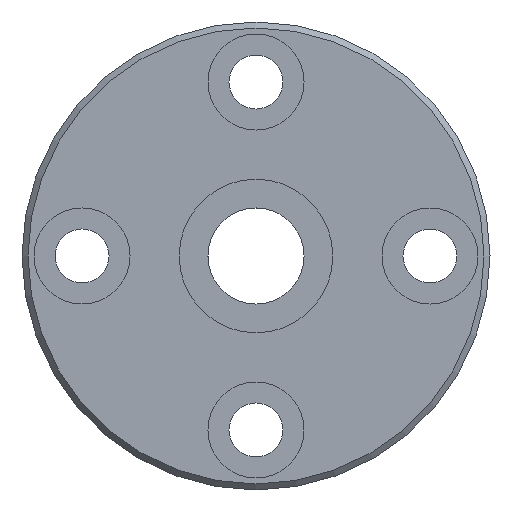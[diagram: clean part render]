
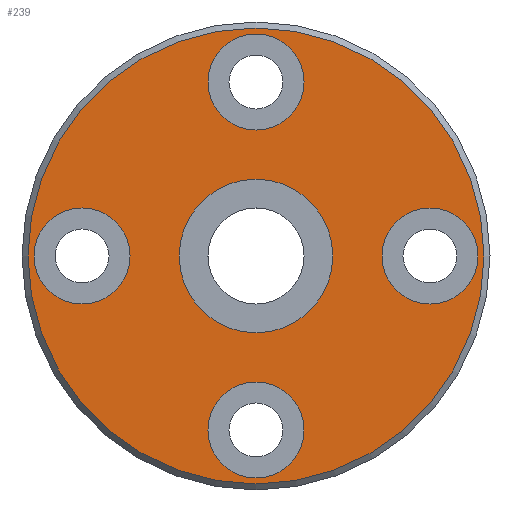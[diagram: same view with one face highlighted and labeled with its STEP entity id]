
A CAD part, left-side view. The second image highlights one B-rep face of the part: STEP entity #239.
In plain terms, the highlighted planar face has unit normal (-1, 0, 0).
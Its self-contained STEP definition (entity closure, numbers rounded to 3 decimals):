
#164=CARTESIAN_POINT('',(0.,0.,19.0));
#165=VERTEX_POINT('',#164);
#166=CARTESIAN_POINT('',(0.,0.0,0.0));
#167=DIRECTION('',(1.0,0.0,0.0));
#168=DIRECTION('',(0.0,0.0,-1.0));
#169=AXIS2_PLACEMENT_3D('',#166,#167,#168);
#170=CIRCLE('',#169,19.0);
#171=EDGE_CURVE('',#165,#165,#170,.T.);
#176=CARTESIAN_POINT('',(0.,0.0,7.95));
#177=DIRECTION('',(-1.0,0.0,0.0));
#178=DIRECTION('',(0.0,0.0,1.0));
#179=AXIS2_PLACEMENT_3D('',#176,#177,#178);
#180=PLANE('',#179);
#181=ORIENTED_EDGE('',*,*,#171,.F.);
#182=EDGE_LOOP('',(#181));
#183=FACE_OUTER_BOUND('',#182,.T.);
#184=CARTESIAN_POINT('',(0.,0.0,6.4));
#185=VERTEX_POINT('',#184);
#186=CARTESIAN_POINT('',(0.,0.0,0.0));
#187=DIRECTION('',(-1.0,0.0,0.0));
#188=DIRECTION('',(0.0,0.0,1.0));
#189=AXIS2_PLACEMENT_3D('',#186,#187,#188);
#190=CIRCLE('',#189,6.4);
#191=EDGE_CURVE('',#185,#185,#190,.T.);
#192=ORIENTED_EDGE('',*,*,#191,.F.);
#193=EDGE_LOOP('',(#192));
#194=FACE_BOUND('',#193,.T.);
#195=CARTESIAN_POINT('',(0.0,-10.5,0.));
#196=VERTEX_POINT('',#195);
#197=CARTESIAN_POINT('',(0.,-14.5,0.));
#198=DIRECTION('',(1.0,0.0,0.0));
#199=DIRECTION('',(0.0,1.0,0.0));
#200=AXIS2_PLACEMENT_3D('',#197,#198,#199);
#201=CIRCLE('',#200,4.0);
#202=EDGE_CURVE('',#196,#196,#201,.T.);
#203=ORIENTED_EDGE('',*,*,#202,.T.);
#204=EDGE_LOOP('',(#203));
#205=FACE_BOUND('',#204,.T.);
#206=CARTESIAN_POINT('',(0.0,18.5,0.));
#207=VERTEX_POINT('',#206);
#208=CARTESIAN_POINT('',(0.,14.5,0.));
#209=DIRECTION('',(1.0,0.0,0.0));
#210=DIRECTION('',(0.0,1.0,0.0));
#211=AXIS2_PLACEMENT_3D('',#208,#209,#210);
#212=CIRCLE('',#211,4.0);
#213=EDGE_CURVE('',#207,#207,#212,.T.);
#214=ORIENTED_EDGE('',*,*,#213,.T.);
#215=EDGE_LOOP('',(#214));
#216=FACE_BOUND('',#215,.T.);
#217=CARTESIAN_POINT('',(0.0,4.,14.5));
#218=VERTEX_POINT('',#217);
#219=CARTESIAN_POINT('',(0.,0.,14.5));
#220=DIRECTION('',(1.0,0.0,0.0));
#221=DIRECTION('',(0.0,1.0,0.0));
#222=AXIS2_PLACEMENT_3D('',#219,#220,#221);
#223=CIRCLE('',#222,4.0);
#224=EDGE_CURVE('',#218,#218,#223,.T.);
#225=ORIENTED_EDGE('',*,*,#224,.T.);
#226=EDGE_LOOP('',(#225));
#227=FACE_BOUND('',#226,.T.);
#228=CARTESIAN_POINT('',(0.0,4.,-14.5));
#229=VERTEX_POINT('',#228);
#230=CARTESIAN_POINT('',(0.,0.,-14.5));
#231=DIRECTION('',(1.0,0.0,0.0));
#232=DIRECTION('',(0.0,1.0,0.0));
#233=AXIS2_PLACEMENT_3D('',#230,#231,#232);
#234=CIRCLE('',#233,4.0);
#235=EDGE_CURVE('',#229,#229,#234,.T.);
#236=ORIENTED_EDGE('',*,*,#235,.T.);
#237=EDGE_LOOP('',(#236));
#238=FACE_BOUND('',#237,.T.);
#239=ADVANCED_FACE('',(#183,#194,#205,#216,#227,#238),#180,.T.);
